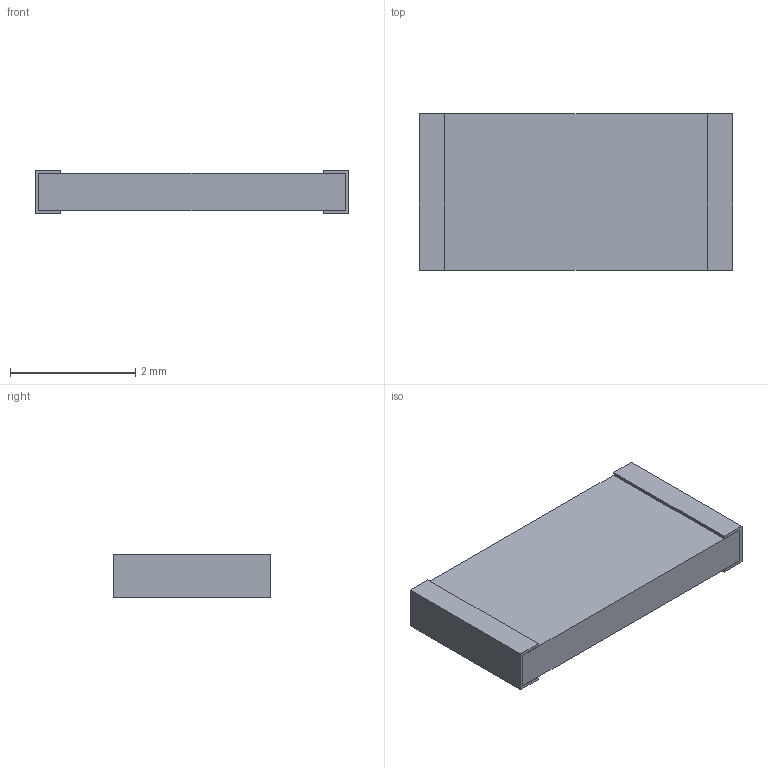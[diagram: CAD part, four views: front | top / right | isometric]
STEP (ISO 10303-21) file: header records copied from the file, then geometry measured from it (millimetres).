
FILE_DESCRIPTION(('STEP AP203'), '1');
FILE_NAME('Ð1-16-0,25', '', ('UNSPECIFIED'), ('UNSPECIFIED'), 'ASCON STEP Converter 1.6', 'ASCON Math Kernel', '');
FILE_SCHEMA(('CONFIG_CONTROL_DESIGN'));
Length unit declared in the file: millimetre
Bounding box: 5 x 2.5 x 0.7 mm (x, y, z)
Volume: 7.7 mm3; surface area: 48.2 mm2
Topology: 3 solids, 3 shells, 26 faces, 60 edges, 40 vertices
Faces by surface type: plane 26
Entity records: 988 total; most frequent: CARTESIAN_POINT 127, ORIENTED_EDGE 120, DIRECTION 114, EDGE_CURVE 60, LINE 60, VECTOR 60, VERTEX_POINT 40, COLOUR_RGB 29
